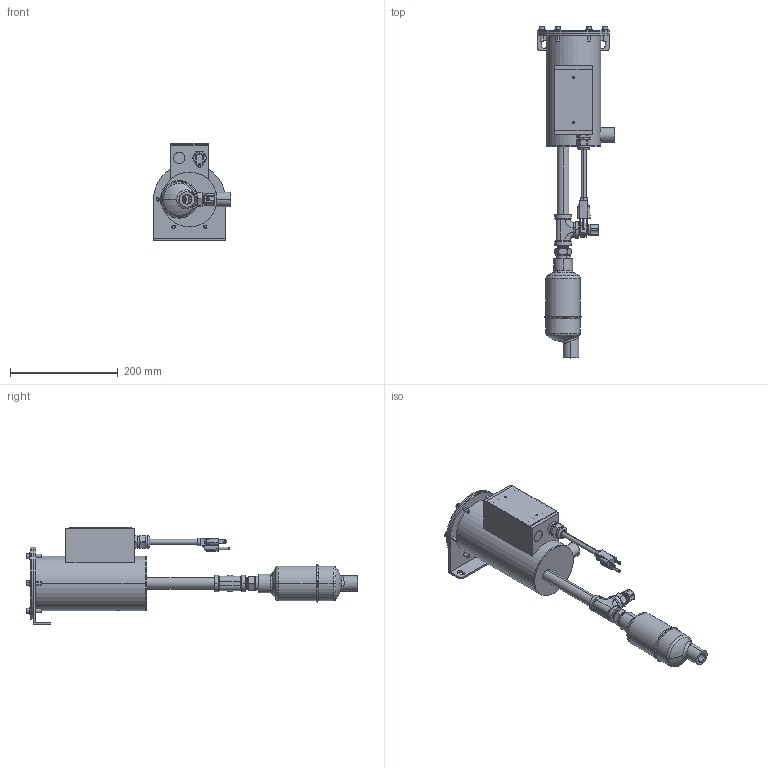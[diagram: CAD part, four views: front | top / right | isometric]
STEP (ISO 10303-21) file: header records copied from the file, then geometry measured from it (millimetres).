
FILE_DESCRIPTION (( 'STEP AP214' ), '1' );
FILE_NAME ('9-0483.STEP', '2018-07-25T15:25:14', ( '' ), ( '' ), 'SwSTEP 2.0', 'SolidWorks 2017', '' );
FILE_SCHEMA (( 'AUTOMOTIVE_DESIGN' ));
Length unit declared in the file: inch
Products named in the file (1): 9-0483
Bounding box: 142.88 x 615.33 x 179.94 mm (x, y, z)
Surface area: 289229.7 mm2 (no closed solid volume)
Topology: 0 solids, 39 shells, 483 faces, 1386 edges, 947 vertices
Faces by surface type: plane 171, cylinder 163, cone 85, bspline 40, torus 20, sphere 4
Entity records: 36938 total; most frequent: CARTESIAN_POINT 18436, DIRECTION 2459, ORIENTED_EDGE 2414, EDGE_CURVE 1380, VERTEX_POINT 947, AXIS2_PLACEMENT_3D 939, VECTOR 581, LINE 581
